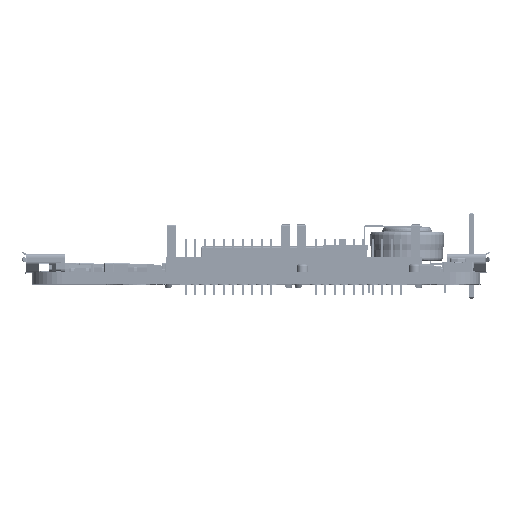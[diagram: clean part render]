
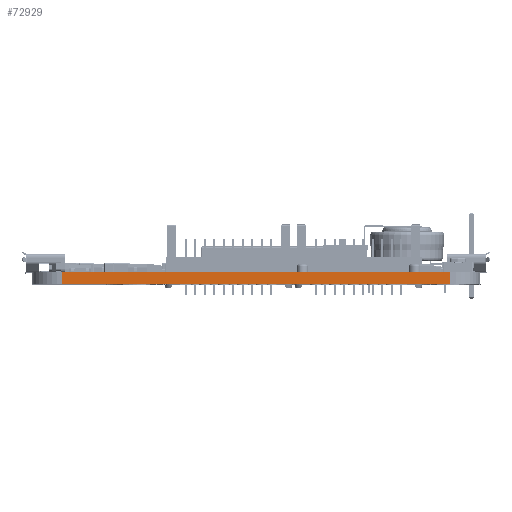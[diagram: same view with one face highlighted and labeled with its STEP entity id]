
A CAD part, top view. The second image highlights one B-rep face of the part: STEP entity #72929.
In plain terms, the highlighted planar face has unit normal (0, 0, 1).
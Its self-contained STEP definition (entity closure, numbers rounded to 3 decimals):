
#72929 = ADVANCED_FACE ( 'NONE', ( #434536 ), #507011, .T. ) ;
#106067 = EDGE_CURVE ( 'NONE', #174240, #174247, #152969, .T. ) ;
#113356 = EDGE_LOOP ( 'NONE', ( #184864, #184868, #184872, #184876, #184880, #184884, #184887 ) ) ;
#152969 = LINE ( 'NONE', #157816, #152973 ) ;
#152973 = VECTOR ( 'NONE', #157821, 1000. ) ;
#157816 = CARTESIAN_POINT ( 'NONE',  ( 146., 0., -158. ) ) ;
#157821 = DIRECTION ( 'NONE',  ( 1., 0., 0. ) ) ;
#171099 = VERTEX_POINT ( 'NONE', #188350 ) ;
#174240 = VERTEX_POINT ( 'NONE', #190102 ) ;
#174247 = VERTEX_POINT ( 'NONE', #190107 ) ;
#184864 = ORIENTED_EDGE ( 'NONE', *, *, #106067, .F. ) ;
#184868 = ORIENTED_EDGE ( 'NONE', *, *, #466543, .F. ) ;
#184872 = ORIENTED_EDGE ( 'NONE', *, *, #278573, .T. ) ;
#184876 = ORIENTED_EDGE ( 'NONE', *, *, #466614, .T. ) ;
#184880 = ORIENTED_EDGE ( 'NONE', *, *, #278557, .T. ) ;
#184884 = ORIENTED_EDGE ( 'NONE', *, *, #466616, .T. ) ;
#184887 = ORIENTED_EDGE ( 'NONE', *, *, #466609, .T. ) ;
#188350 = CARTESIAN_POINT ( 'NONE',  ( 146., -1.6, -158. ) ) ;
#190102 = CARTESIAN_POINT ( 'NONE',  ( 94., 0., -158. ) ) ;
#190107 = CARTESIAN_POINT ( 'NONE',  ( 146., 0., -158. ) ) ;
#196609 = LINE ( 'NONE', #224438, #196616 ) ;
#196616 = VECTOR ( 'NONE', #224439, 1000. ) ;
#196621 = LINE ( 'NONE', #224445, #196626 ) ;
#196626 = VECTOR ( 'NONE', #224447, 1000. ) ;
#224438 = CARTESIAN_POINT ( 'NONE',  ( 146., -1.6, -158. ) ) ;
#224439 = DIRECTION ( 'NONE',  ( 1., 0., 0. ) ) ;
#224445 = CARTESIAN_POINT ( 'NONE',  ( 146., -1.6, -158. ) ) ;
#224447 = DIRECTION ( 'NONE',  ( 1., 0., 0. ) ) ;
#246808 = CARTESIAN_POINT ( 'NONE',  ( 105.017, -1.6, -158. ) ) ;
#278557 = EDGE_CURVE ( 'NONE', #459668, #498965, #196609, .T. ) ;
#278573 = EDGE_CURVE ( 'NONE', #498972, #498968, #196621, .T. ) ;
#344017 = CARTESIAN_POINT ( 'NONE',  ( 144.983, -1.6, -158. ) ) ;
#344019 = CARTESIAN_POINT ( 'NONE',  ( 102.983, -1.6, -158. ) ) ;
#344021 = CARTESIAN_POINT ( 'NONE',  ( 94., -1.6, -158. ) ) ;
#434536 = FACE_OUTER_BOUND ( 'NONE', #113356, .T. ) ;
#459668 = VERTEX_POINT ( 'NONE', #246808 ) ;
#466543 = EDGE_CURVE ( 'NONE', #498972, #174240, #523539, .T. ) ;
#466609 = EDGE_CURVE ( 'NONE', #171099, #174247, #524870, .T. ) ;
#466614 = EDGE_CURVE ( 'NONE', #498968, #459668, #524937, .T. ) ;
#466616 = EDGE_CURVE ( 'NONE', #498965, #171099, #525010, .T. ) ;
#475935 = AXIS2_PLACEMENT_3D ( 'NONE', #507017, #507023, #507028 ) ;
#498965 = VERTEX_POINT ( 'NONE', #344017 ) ;
#498968 = VERTEX_POINT ( 'NONE', #344019 ) ;
#498972 = VERTEX_POINT ( 'NONE', #344021 ) ;
#507011 = PLANE ( 'NONE',  #475935 ) ;
#507017 = CARTESIAN_POINT ( 'NONE',  ( 146., -1.6, -158. ) ) ;
#507023 = DIRECTION ( 'NONE',  ( 0., 0., 1. ) ) ;
#507028 = DIRECTION ( 'NONE',  ( 1., 0., 0. ) ) ;
#517855 = CARTESIAN_POINT ( 'NONE',  ( 94., -1.6, -158. ) ) ;
#517858 = DIRECTION ( 'NONE',  ( 0., 1., 0. ) ) ;
#518875 = CARTESIAN_POINT ( 'NONE',  ( 146., -1.6, -158. ) ) ;
#518880 = DIRECTION ( 'NONE',  ( 0., 1., 0. ) ) ;
#518964 = CARTESIAN_POINT ( 'NONE',  ( 146., -1.6, -158. ) ) ;
#518969 = DIRECTION ( 'NONE',  ( 1., 0., 0. ) ) ;
#519036 = CARTESIAN_POINT ( 'NONE',  ( 146., -1.6, -158. ) ) ;
#519041 = DIRECTION ( 'NONE',  ( 1., 0., 0. ) ) ;
#523539 = LINE ( 'NONE', #517855, #523544 ) ;
#523544 = VECTOR ( 'NONE', #517858, 1000. ) ;
#524870 = LINE ( 'NONE', #518875, #524874 ) ;
#524874 = VECTOR ( 'NONE', #518880, 1000. ) ;
#524937 = LINE ( 'NONE', #518964, #524946 ) ;
#524946 = VECTOR ( 'NONE', #518969, 1000. ) ;
#525010 = LINE ( 'NONE', #519036, #525013 ) ;
#525013 = VECTOR ( 'NONE', #519041, 1000. ) ;
